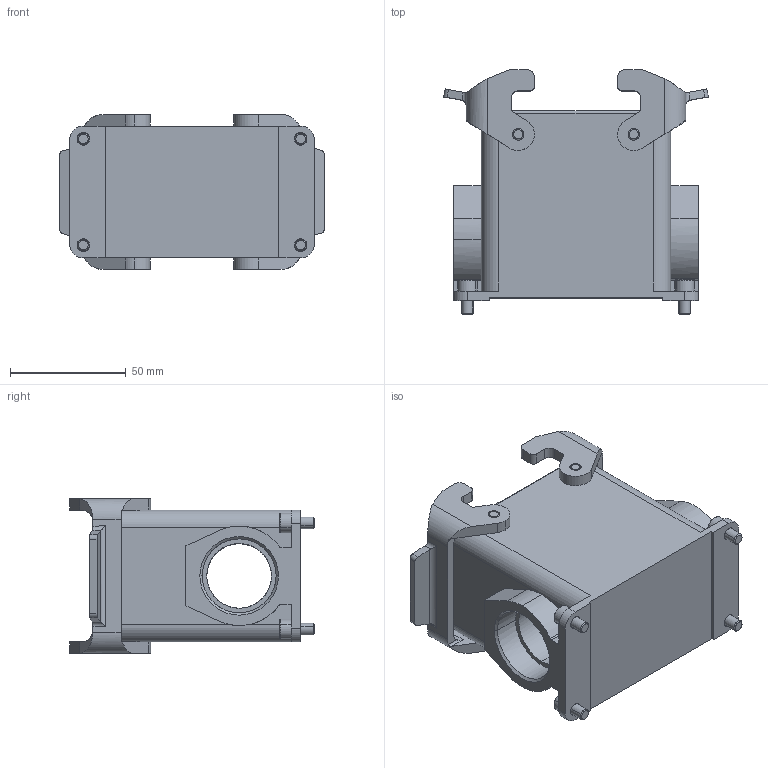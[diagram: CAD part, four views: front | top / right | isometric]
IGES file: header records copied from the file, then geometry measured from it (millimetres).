
Start section: 3D InterOp IGES (Version 25 0 2), Spatial Corp. Copyright (c) 1999-2007.
Global section: file name: E2711_82_32A.igs; native system: Spatial Corp.; preprocessor: 3D InterOp GENERIC/IGES 3.0; author: Noname; organization: Noname; date: 20160920.090210; units: metre
Bounding box: 114.49 x 105.8 x 67 mm (x, y, z)
Volume: 168142.5 mm3; surface area: 69450 mm2
Topology: 5 solids, 5 shells, 365 faces, 958 edges, 618 vertices
Faces by surface type: plane 175, cylinder 146, torus 32, cone 12
